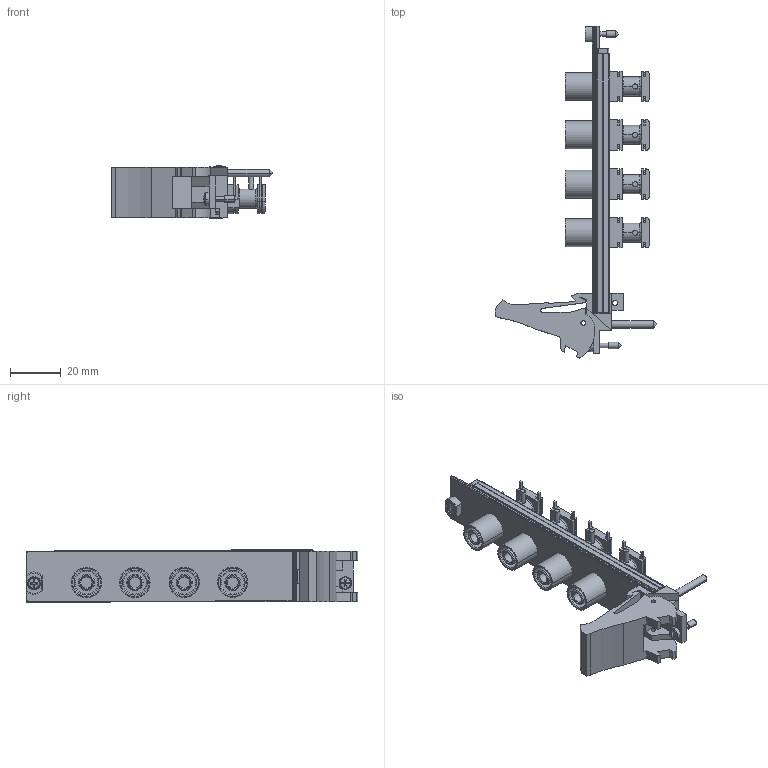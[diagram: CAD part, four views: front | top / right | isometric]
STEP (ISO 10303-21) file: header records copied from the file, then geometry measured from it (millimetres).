
FILE_DESCRIPTION((''),'2;1');
FILE_NAME('CU_PXIE-408X','2016-05-24T',('jjorden'),(''),'CREO PARAMETRIC BY PTC INC, 2015380','CREO PARAMETRIC BY PTC INC, 2015380','');
FILE_SCHEMA(('CONFIG_CONTROL_DESIGN'));
Length unit declared in the file: inch
Products named in the file (1): CU_PXIE-408X
Bounding box: 63.53 x 130.53 x 20.65 mm (x, y, z)
Volume: 24173.5 mm3; surface area: 25162.2 mm2
Topology: 6 solids, 6 shells, 745 faces, 1938 edges, 1242 vertices
Faces by surface type: plane 450, cylinder 225, torus 52, cone 14, sphere 4
Entity records: 23277 total; most frequent: CARTESIAN_POINT 4569, DIRECTION 3935, ORIENTED_EDGE 3868, EDGE_CURVE 1934, AXIS2_PLACEMENT_3D 1312, VECTOR 1311, LINE 1311, VERTEX_POINT 1242
